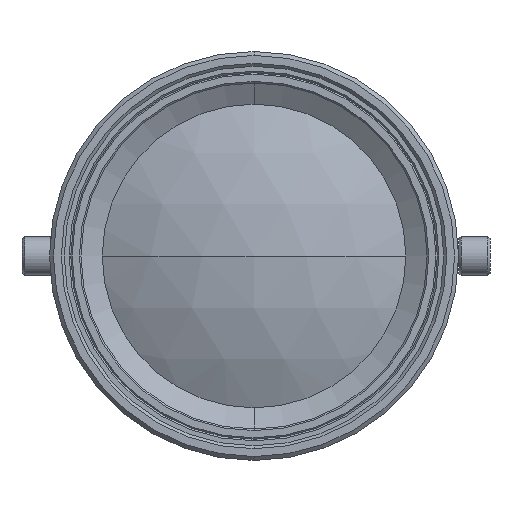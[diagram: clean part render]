
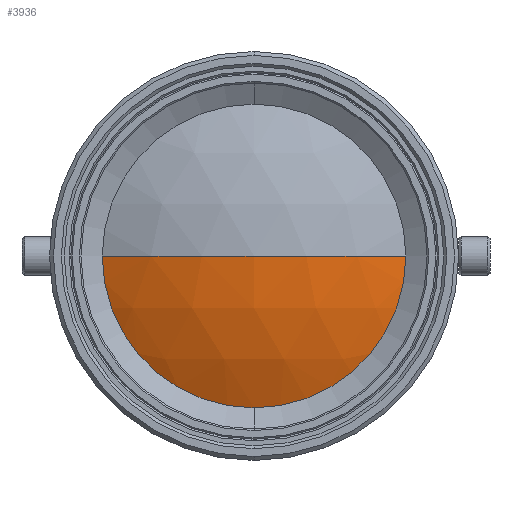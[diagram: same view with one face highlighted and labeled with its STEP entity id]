
A CAD part, left-side view. The second image highlights one B-rep face of the part: STEP entity #3936.
In plain terms, the highlighted spherical face has radius 43.82 mm.
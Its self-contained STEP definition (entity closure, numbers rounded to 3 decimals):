
#134 = CARTESIAN_POINT ( 'NONE',  ( 6.191, 0., -19.3 ) ) ;
#458 = CARTESIAN_POINT ( 'NONE',  ( 6.191, 0., 0. ) ) ;
#773 = DIRECTION ( 'NONE',  ( 0., 0., -1. ) ) ;
#800 = DIRECTION ( 'NONE',  ( 0., 0., 1. ) ) ;
#876 = DIRECTION ( 'NONE',  ( 0., 1., 0. ) ) ;
#917 = EDGE_CURVE ( 'NONE', #3130, #934, #1629, .T. ) ;
#934 = VERTEX_POINT ( 'NONE', #4081 ) ;
#952 = FACE_OUTER_BOUND ( 'NONE', #2512, .T. ) ;
#1056 = DIRECTION ( 'NONE',  ( -1., 0., 0. ) ) ;
#1174 = AXIS2_PLACEMENT_3D ( 'NONE', #3466, #1178, #876 ) ;
#1178 = DIRECTION ( 'NONE',  ( 0., 0., -1. ) ) ;
#1267 = VERTEX_POINT ( 'NONE', #1482 ) ;
#1330 = AXIS2_PLACEMENT_3D ( 'NONE', #3721, #1754, #4070 ) ;
#1482 = CARTESIAN_POINT ( 'NONE',  ( 6.191, 19.3, 0. ) ) ;
#1629 = CIRCLE ( 'NONE', #3673, 19.3 ) ;
#1698 = SPHERICAL_SURFACE ( 'NONE', #1174, 43.82 ) ;
#1754 = DIRECTION ( 'NONE',  ( 0., 0., 1. ) ) ;
#2150 = CIRCLE ( 'NONE', #2361, 43.82 ) ;
#2275 = ORIENTED_EDGE ( 'NONE', *, *, #917, .T. ) ;
#2361 = AXIS2_PLACEMENT_3D ( 'NONE', #2714, #773, #3045 ) ;
#2512 = EDGE_LOOP ( 'NONE', ( #2275, #3283, #4020, #3538 ) ) ;
#2516 = CARTESIAN_POINT ( 'NONE',  ( 1.711, 0., 0. ) ) ;
#2558 = CIRCLE ( 'NONE', #1330, 43.82 ) ;
#2706 = EDGE_CURVE ( 'NONE', #934, #3585, #2150, .T. ) ;
#2714 = CARTESIAN_POINT ( 'NONE',  ( 45.531, 0., 0. ) ) ;
#2737 = DIRECTION ( 'NONE',  ( -1., 0., 0. ) ) ;
#2875 = CIRCLE ( 'NONE', #3382, 19.3 ) ;
#2998 = EDGE_CURVE ( 'NONE', #1267, #3130, #2875, .T. ) ;
#3007 = CARTESIAN_POINT ( 'NONE',  ( 6.191, 0., 0. ) ) ;
#3045 = DIRECTION ( 'NONE',  ( 0., 1., 0. ) ) ;
#3075 = EDGE_CURVE ( 'NONE', #1267, #3585, #2558, .T. ) ;
#3130 = VERTEX_POINT ( 'NONE', #134 ) ;
#3283 = ORIENTED_EDGE ( 'NONE', *, *, #2706, .T. ) ;
#3334 = DIRECTION ( 'NONE',  ( 0., 0., 1. ) ) ;
#3382 = AXIS2_PLACEMENT_3D ( 'NONE', #3007, #1056, #3334 ) ;
#3466 = CARTESIAN_POINT ( 'NONE',  ( 45.531, 0., 0. ) ) ;
#3538 = ORIENTED_EDGE ( 'NONE', *, *, #2998, .T. ) ;
#3585 = VERTEX_POINT ( 'NONE', #2516 ) ;
#3673 = AXIS2_PLACEMENT_3D ( 'NONE', #458, #2737, #800 ) ;
#3721 = CARTESIAN_POINT ( 'NONE',  ( 45.531, 0., 0. ) ) ;
#3936 = ADVANCED_FACE ( 'NONE', ( #952 ), #1698, .T. ) ;
#4020 = ORIENTED_EDGE ( 'NONE', *, *, #3075, .F. ) ;
#4070 = DIRECTION ( 'NONE',  ( 1., 0., 0. ) ) ;
#4081 = CARTESIAN_POINT ( 'NONE',  ( 6.191, -19.3, 0. ) ) ;
